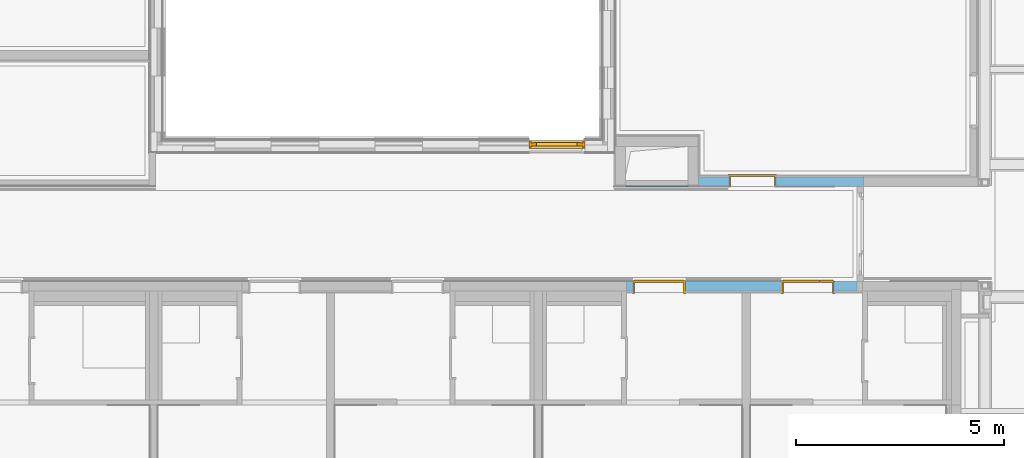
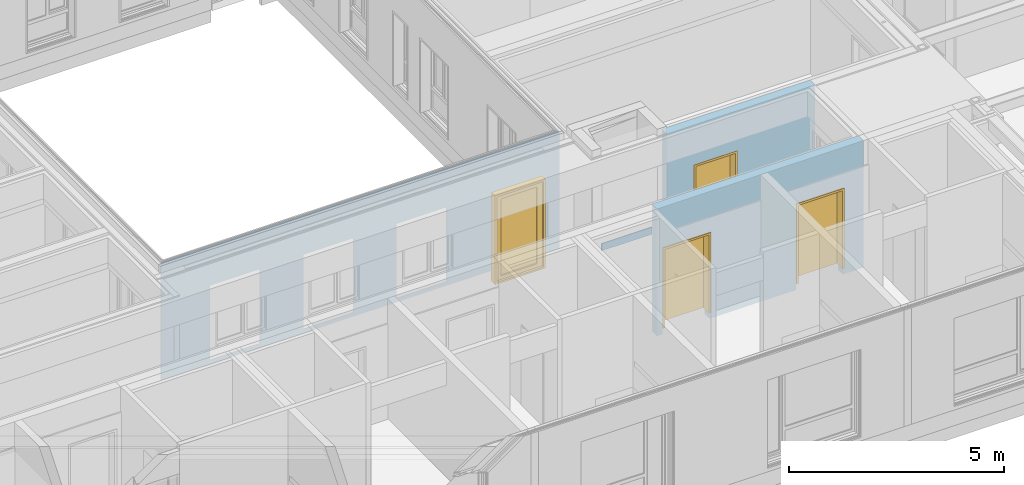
# One storey, part 74 of 207: 4 doors, 1 wall, 7 openings, plus 3 elements that do not belong to this part.
"""IFC4 building model written with IfcOpenShell, lengths in metres."""

from ifc_helpers import new_model, entity, si_unit, converted_unit, derived_unit, frame, frame_2d, origin, origin_with_axes, place, context, subcontext, project, spatial, polyline, rectangle, outline, extrude, closed_shell, open_shell, faceted_brep, surface_model, source, transform, mapped, material, type_object, element, fill, save


model = new_model("IFC4")

# Units and contexts
model_context = context("Model", 3, precision=1e-05, world=origin())
body_context = subcontext(model_context, "Body", "Model", "MODEL_VIEW")
ifc_project = project(units=[si_unit("LENGTHUNIT", "METRE"), si_unit("AREAUNIT", "SQUARE_METRE"), si_unit("VOLUMEUNIT", "CUBIC_METRE"), si_unit("MASSUNIT", "GRAM", prefix="KILO"), converted_unit("PLANEANGLEUNIT", "DEGREE", entity("IfcPlaneAngleMeasure", 0.0174532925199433), si_unit("PLANEANGLEUNIT", "RADIAN"), dimensions=[0, 0, 0, 0, 0, 0, 0]), derived_unit("THERMALTRANSMITTANCEUNIT", [(si_unit("POWERUNIT", "WATT"), 1), (si_unit("THERMODYNAMICTEMPERATUREUNIT", "KELVIN"), -1), (si_unit("LENGTHUNIT", "METRE"), -2)]), derived_unit("VOLUMETRICFLOWRATEUNIT", [(si_unit("LENGTHUNIT", "METRE"), 3), (converted_unit("TIMEUNIT", "hour", entity("IfcTimeMeasure", 3600.0), si_unit("TIMEUNIT", "SECOND"), dimensions=[0, 0, 1, 0, 0, 0, 0]), -1), (si_unit("LENGTHUNIT", "METRE"), -1)])], contexts=[model_context])

# Site, building, storey
site_placement = place(None, origin())
site = spatial("IfcSite", under=ifc_project, at=site_placement, Name="Psychiatrie Neubau Wunstorf", CompositionType="ELEMENT")
building_placement = place(site_placement, origin())
building = spatial("IfcBuilding", under=site, at=building_placement, Name="Neubau H2 Stationsgebäude", CompositionType="ELEMENT")
storey_placement = place(building_placement, frame((0.0, 0.0, -0.2)))
storey = spatial("IfcBuildingStorey", under=building, at=storey_placement, Name="H2 Ebene 0", CompositionType="ELEMENT", Elevation=-0.2)

# Wall, openings, door
ifc_material_1 = material(Name="WA-LB")
wall_1_placement = place(storey_placement, frame((15.915, 7.69, 0.5)))
wall_1 = element("IfcWall", 1, at=wall_1_placement, inside=storey, material=ifc_material_1, context=body_context, shape_type="SweptSolid", body=[
    extrude(rectangle(XDim=10.67, YDim=0.036, at=frame_2d((5.33499999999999, 0.018), x_axis=(1.0, 0.0))), origin_with_axes(), (0.0, 0.0, 1.0), 3.3),
])
opening_1_placement = place(wall_1_placement, frame((7.65516867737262, 0.036, 0.1), z_axis=(0.0, -1.0, 0.0), x_axis=(0.0, 0.0, 1.0)))
element("IfcOpeningElement", 2, at=opening_1_placement, cuts=wall_1, Name="Fensteröffnung", ObjectType="Opening", context=body_context, shape_type="SweptSolid", body=[
    extrude(outline(polyline([(2.12, 1.35), (2.12, 0.0), (0.0, 0.0), (0.0, 1.35), (2.12, 1.35)])), origin_with_axes(), (0.0, 0.0, 1.0), 0.036),
])
opening_2_placement = place(wall_1_placement, frame((5.15516867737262, 0.036, 0.1), z_axis=(0.0, -1.0, 0.0), x_axis=(0.0, 0.0, 1.0)))
element("IfcOpeningElement", 3, at=opening_2_placement, cuts=wall_1, Name="Fensteröffnung", ObjectType="Opening", context=body_context, shape_type="SweptSolid", body=[
    extrude(outline(polyline([(2.12, 1.35), (2.12, 0.0), (0.0, 0.0), (0.0, 1.35), (2.12, 1.35)])), origin_with_axes(), (0.0, 0.0, 1.0), 0.036),
])
opening_3_placement = place(wall_1_placement, frame((2.65516867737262, 0.036, 0.1), z_axis=(0.0, -1.0, 0.0), x_axis=(0.0, 0.0, 1.0)))
element("IfcOpeningElement", 4, at=opening_3_placement, cuts=wall_1, Name="Fensteröffnung", ObjectType="Opening", context=body_context, shape_type="SweptSolid", body=[
    extrude(outline(polyline([(2.12, 1.35), (2.12, 0.0), (0.0, 0.0), (0.0, 1.35), (2.12, 1.35)])), origin_with_axes(), (0.0, 0.0, 1.0), 0.036),
])
opening_4_placement = place(wall_1_placement, frame((10.2051686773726, 0.036, -0.5), z_axis=(0.0, -1.0, 0.0), x_axis=(0.0, 0.0, 1.0)))
opening_4 = element("IfcOpeningElement", 5, at=opening_4_placement, cuts=wall_1, Name="Türöffnung", ObjectType="Opening", context=body_context, shape_type="SweptSolid", body=[
    extrude(outline(polyline([(2.72, 1.35), (2.72, 0.0), (0.0, 0.0), (0.0, 1.35), (2.72, 1.35)])), origin_with_axes(), (0.0, 0.0, 1.0), 0.036),
])
ifc_material_2 = material(Name="TA-1F-AG-D-O")
door_type_1 = type_object("IfcDoorType", Name="SMT", OperationType="SINGLE_SWING_RIGHT", ParameterTakesPrecedence=False, PredefinedType="DOOR")
shared_shape_1 = source(origin_with_axes(), body_context, "Body", "SurfaceModel", [
    surface_model("IfcShellBasedSurfaceModel", [(1.35, 0.0, 2.72), (1.35, 0.0, 0.2), (1.3, 0.0, 0.2), (1.3, 0.0, 2.72), (1.35, 0.2, 0.2), (1.35, 0.2, 2.72), (1.3, 0.2, 2.72), (1.3, 0.2, 0.2)], [closed_shell([[[0, 1, 2, 3]], [[4, 5, 6, 7]], [[1, 0, 5, 4]], [[2, 1, 4, 7]], [[3, 2, 7, 6]], [[0, 3, 6, 5]]], orient=[[False], [False], [False], [False], [False], [False]])]),
    surface_model("IfcShellBasedSurfaceModel", [(0.05, 0.0, 2.72), (0.05, 0.0, 0.2), (0.0, 0.0, 0.2), (0.0, 0.0, 2.72), (0.05, 0.2, 0.2), (0.05, 0.2, 2.72), (0.0, 0.2, 2.72), (0.0, 0.2, 0.2)], [closed_shell([[[0, 1, 2, 3]], [[4, 5, 6, 7]], [[1, 0, 5, 4]], [[2, 1, 4, 7]], [[3, 2, 7, 6]], [[0, 3, 6, 5]]], orient=[[False], [False], [False], [False], [False], [False]])]),
    surface_model("IfcShellBasedSurfaceModel", [(1.3, 0.0, 0.25), (1.3, 0.0, 0.2), (0.05, 0.0, 0.2), (0.05, 0.0, 0.25), (1.3, 0.2, 0.2), (1.3, 0.2, 0.25), (0.05, 0.2, 0.25), (0.05, 0.2, 0.2)], [closed_shell([[[0, 1, 2, 3]], [[4, 5, 6, 7]], [[1, 0, 5, 4]], [[2, 1, 4, 7]], [[3, 2, 7, 6]], [[0, 3, 6, 5]]], orient=[[False], [False], [False], [False], [False], [False]])]),
    surface_model("IfcShellBasedSurfaceModel", [(1.3, 0.0, 2.72), (1.3, 0.0, 2.67), (0.05, 0.0, 2.67), (0.05, 0.0, 2.72), (1.3, 0.2, 2.67), (1.3, 0.2, 2.72), (0.05, 0.2, 2.72), (0.05, 0.2, 2.67)], [closed_shell([[[0, 1, 2, 3]], [[4, 5, 6, 7]], [[1, 0, 5, 4]], [[2, 1, 4, 7]], [[3, 2, 7, 6]], [[0, 3, 6, 5]]], orient=[[False], [False], [False], [False], [False], [False]])]),
    surface_model("IfcShellBasedSurfaceModel", [(1.3, 0.0599999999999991, 2.67), (1.3, 0.0599999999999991, 0.25), (1.22, 0.0599999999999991, 0.25), (1.22, 0.0599999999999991, 2.67), (1.3, 0.14, 0.25), (1.3, 0.139999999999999, 2.67), (1.22, 0.139999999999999, 2.67), (1.22, 0.14, 0.25)], [closed_shell([[[0, 1, 2, 3]], [[4, 5, 6, 7]], [[1, 0, 5, 4]], [[2, 1, 4, 7]], [[3, 2, 7, 6]], [[0, 3, 6, 5]]], orient=[[False], [False], [False], [False], [False], [False]])]),
    surface_model("IfcShellBasedSurfaceModel", [(0.13, 0.0599999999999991, 2.67), (0.13, 0.0599999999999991, 0.25), (0.05, 0.0599999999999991, 0.25), (0.05, 0.0599999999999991, 2.67), (0.13, 0.14, 0.25), (0.13, 0.139999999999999, 2.67), (0.05, 0.14, 2.67), (0.05, 0.14, 0.25)], [closed_shell([[[0, 1, 2, 3]], [[4, 5, 6, 7]], [[1, 0, 5, 4]], [[2, 1, 4, 7]], [[3, 2, 7, 6]], [[0, 3, 6, 5]]], orient=[[False], [False], [False], [False], [False], [False]])]),
    surface_model("IfcShellBasedSurfaceModel", [(1.22, 0.0599999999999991, 2.67), (1.22, 0.0599999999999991, 2.59), (0.13, 0.0599999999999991, 2.59), (0.13, 0.0599999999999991, 2.67), (1.22, 0.139999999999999, 2.59), (1.22, 0.139999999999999, 2.67), (0.13, 0.139999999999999, 2.67), (0.13, 0.14, 2.59)], [closed_shell([[[0, 1, 2, 3]], [[4, 5, 6, 7]], [[1, 0, 5, 4]], [[2, 1, 4, 7]], [[3, 2, 7, 6]], [[0, 3, 6, 5]]], orient=[[False], [False], [False], [False], [False], [False]])]),
    surface_model("IfcShellBasedSurfaceModel", [(1.24, 0.0609999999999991, 2.61), (1.24, 0.0609999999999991, 0.23), (1.16, 0.0609999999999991, 0.23), (1.16, 0.0609999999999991, 2.61), (1.24, 0.141, 0.23), (1.24, 0.140999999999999, 2.61), (1.16, 0.140999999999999, 2.61), (1.16, 0.141, 0.23)], [closed_shell([[[0, 1, 2, 3]], [[4, 5, 6, 7]], [[1, 0, 5, 4]], [[2, 1, 4, 7]], [[3, 2, 7, 6]], [[0, 3, 6, 5]]], orient=[[False], [False], [False], [False], [False], [False]])]),
    surface_model("IfcShellBasedSurfaceModel", [(0.19, 0.0609999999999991, 2.61), (0.19, 0.0609999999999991, 0.23), (0.11, 0.0609999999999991, 0.23), (0.11, 0.0609999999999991, 2.61), (0.19, 0.141, 0.23), (0.19, 0.140999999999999, 2.61), (0.11, 0.141, 2.61), (0.11, 0.141, 0.23)], [closed_shell([[[0, 1, 2, 3]], [[4, 5, 6, 7]], [[1, 0, 5, 4]], [[2, 1, 4, 7]], [[3, 2, 7, 6]], [[0, 3, 6, 5]]], orient=[[False], [False], [False], [False], [False], [False]])]),
    surface_model("IfcShellBasedSurfaceModel", [(1.16, 0.0609999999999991, 0.35), (1.16, 0.0609999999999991, 0.23), (0.19, 0.0609999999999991, 0.23), (0.19, 0.0609999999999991, 0.35), (1.16, 0.141, 0.23), (1.16, 0.141, 0.35), (0.19, 0.141, 0.35), (0.19, 0.141, 0.23)], [closed_shell([[[0, 1, 2, 3]], [[4, 5, 6, 7]], [[1, 0, 5, 4]], [[2, 1, 4, 7]], [[3, 2, 7, 6]], [[0, 3, 6, 5]]], orient=[[False], [False], [False], [False], [False], [False]])]),
    surface_model("IfcShellBasedSurfaceModel", [(1.16, 0.0609999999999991, 2.61), (1.16, 0.0609999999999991, 2.53), (0.19, 0.0609999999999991, 2.53), (0.19, 0.0609999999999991, 2.61), (1.16, 0.140999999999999, 2.53), (1.16, 0.140999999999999, 2.61), (0.19, 0.140999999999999, 2.61), (0.19, 0.141, 2.53)], [closed_shell([[[0, 1, 2, 3]], [[4, 5, 6, 7]], [[1, 0, 5, 4]], [[2, 1, 4, 7]], [[3, 2, 7, 6]], [[0, 3, 6, 5]]], orient=[[False], [False], [False], [False], [False], [False]])]),
    surface_model("IfcShellBasedSurfaceModel", [(1.16, 0.101, 0.35), (0.19, 0.101, 0.35), (0.19, 0.100999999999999, 2.53), (1.16, 0.100999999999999, 2.53)], [open_shell([[[0, 1, 2, 3]]], orient=[[False]])]),
])
door_1_placement = place(opening_4_placement, frame((0.0, 1.35, 0.2), z_axis=(1.0, 0.0, 0.0), x_axis=(0.0, -1.0, 0.0)))
door_1 = element("IfcDoor", 6, at=door_1_placement, inside=storey, type_object=door_type_1, material=ifc_material_2, Name="SMT", OverallHeight=2.72, OverallWidth=1.35, context=body_context, shape_type="MappedRepresentation", body=[
    mapped(shared_shape_1, transform((0.0, 0.0, 0.0), x_axis=(1.0, 0.0, 0.0), y_axis=(0.0, 1.0, 0.0), z_axis=(0.0, 0.0, 1.0), scale=1.0)),
])
fill(opening_4, door_1)

# Wall, opening, door
ifc_material_3 = material(Name="WI-HW 60")
wall_2_placement = place(storey_placement, frame((28.85, 6.612, 0.0)))
wall_2 = element("IfcWall", 7, at=wall_2_placement, inside=storey, material=ifc_material_3, context=body_context, shape_type="SweptSolid", body=[
    extrude(rectangle(XDim=3.96849999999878, YDim=0.232, at=frame_2d((1.98424999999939, 0.116), x_axis=(1.0, 0.0))), origin_with_axes(), (0.0, 0.0, 1.0), 3.6),
])
opening_5_placement = place(wall_2_placement, frame((1.86499999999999, 0.231999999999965, 0.0), z_axis=(0.0, -1.0, 0.0), x_axis=(0.0, 0.0, 1.0)))
opening_5 = element("IfcOpeningElement", 8, at=opening_5_placement, cuts=wall_2, Name="Türöffnung", ObjectType="Opening", context=body_context, shape_type="SweptSolid", body=[
    extrude(outline(polyline([(2.46, 1.135), (2.46, 0.0), (0.0, 0.0), (0.0, 1.135), (2.46, 1.135)])), origin_with_axes(), (0.0, 0.0, 1.0), 0.232),
])
ifc_material_4 = material(Name="TI-1F-UZ-D")
door_type_2 = type_object("IfcDoorType", Name="SMT", OperationType="SINGLE_SWING_RIGHT", ParameterTakesPrecedence=False, PredefinedType="DOOR")
shared_shape_2 = source(origin_with_axes(), body_context, "Body", "Brep", [
    faceted_brep([(0.0, -0.015, 2.46), (0.04, -0.015, 2.46), (0.04, -0.015, 0.2), (0.0, -0.015, 0.2), (0.0, 0.287, 0.2), (0.04, 0.287, 0.2), (0.04, 0.287, 2.46), (0.0, 0.287, 2.46)], [[[0, 1, 2, 3]], [[4, 5, 6, 7]], [[3, 4, 7, 0]], [[2, 5, 4, 3]], [[1, 6, 5, 2]], [[0, 7, 6, 1]]], orient=[[False], [False], [False], [False], [False], [False]]),
    faceted_brep([(0.0, -0.015, 2.475), (0.0, -0.015, 0.2), (-0.015, -0.015, 0.2), (-0.015, -0.015, 2.475), (0.0, 0.0, 0.2), (0.0, 0.0, 2.475), (-0.015, 0.0, 2.475), (-0.015, 0.0, 0.2)], [[[0, 1, 2, 3]], [[4, 5, 6, 7]], [[1, 0, 5, 4]], [[2, 1, 4, 7]], [[3, 2, 7, 6]], [[0, 3, 6, 5]]], orient=[[False], [False], [False], [False], [False], [False]]),
    faceted_brep([(0.0, 0.272, 2.475), (0.0, 0.272, 0.2), (-0.015, 0.272, 0.2), (-0.015, 0.272, 2.475), (0.0, 0.287, 0.2), (0.0, 0.287, 2.475), (-0.015, 0.287, 2.475), (-0.015, 0.287, 0.2)], [[[0, 1, 2, 3]], [[4, 5, 6, 7]], [[1, 0, 5, 4]], [[2, 1, 4, 7]], [[3, 2, 7, 6]], [[0, 3, 6, 5]]], orient=[[False], [False], [False], [False], [False], [False]]),
    faceted_brep([(1.095, -0.0150000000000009, 2.46), (1.135, -0.0150000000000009, 2.46), (1.135, -0.015, 0.2), (1.095, -0.015, 0.2), (1.095, 0.287, 0.2), (1.135, 0.287, 0.2), (1.135, 0.286999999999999, 2.46), (1.095, 0.286999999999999, 2.46)], [[[0, 1, 2, 3]], [[4, 5, 6, 7]], [[3, 4, 7, 0]], [[2, 5, 4, 3]], [[1, 6, 5, 2]], [[0, 7, 6, 1]]], orient=[[False], [False], [False], [False], [False], [False]]),
    faceted_brep([(1.135, -0.0150000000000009, 2.475), (1.15, -0.0150000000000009, 2.475), (1.15, -0.015, 0.2), (1.135, -0.015, 0.2), (1.135, 0.0, 0.2), (1.15, 0.0, 0.2), (1.15, 0.0, 2.475), (1.135, 0.0, 2.475)], [[[0, 1, 2, 3]], [[4, 5, 6, 7]], [[3, 4, 7, 0]], [[2, 5, 4, 3]], [[1, 6, 5, 2]], [[0, 7, 6, 1]]], orient=[[False], [False], [False], [False], [False], [False]]),
    faceted_brep([(1.135, 0.271999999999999, 2.475), (1.15, 0.271999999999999, 2.475), (1.15, 0.272, 0.2), (1.135, 0.272, 0.2), (1.135, 0.287, 0.2), (1.15, 0.287, 0.2), (1.15, 0.286999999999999, 2.475), (1.135, 0.286999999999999, 2.475)], [[[0, 1, 2, 3]], [[4, 5, 6, 7]], [[3, 4, 7, 0]], [[2, 5, 4, 3]], [[1, 6, 5, 2]], [[0, 7, 6, 1]]], orient=[[False], [False], [False], [False], [False], [False]]),
    faceted_brep([(0.04, -0.015, 2.46), (1.095, -0.0150000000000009, 2.46), (1.095, -0.0150000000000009, 2.42), (0.04, -0.015, 2.42), (0.04, 0.287, 2.42), (1.095, 0.286999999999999, 2.42), (1.095, 0.286999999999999, 2.46), (0.04, 0.287, 2.46)], [[[0, 1, 2, 3]], [[4, 5, 6, 7]], [[3, 4, 7, 0]], [[2, 5, 4, 3]], [[1, 6, 5, 2]], [[0, 7, 6, 1]]], orient=[[False], [False], [False], [False], [False], [False]]),
    faceted_brep([(0.0, -0.015, 2.475), (1.135, -0.0150000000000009, 2.475), (1.135, -0.0150000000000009, 2.46), (0.0, -0.015, 2.46), (0.0, 0.0, 2.46), (1.135, 0.0, 2.46), (1.135, 0.0, 2.475), (0.0, 0.0, 2.475)], [[[0, 1, 2, 3]], [[4, 5, 6, 7]], [[3, 4, 7, 0]], [[2, 5, 4, 3]], [[1, 6, 5, 2]], [[0, 7, 6, 1]]], orient=[[False], [False], [False], [False], [False], [False]]),
    faceted_brep([(0.0, 0.272, 2.475), (1.135, 0.271999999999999, 2.475), (1.135, 0.271999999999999, 2.46), (0.0, 0.272, 2.46), (0.0, 0.287, 2.46), (1.135, 0.286999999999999, 2.46), (1.135, 0.286999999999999, 2.475), (0.0, 0.287, 2.475)], [[[0, 1, 2, 3]], [[4, 5, 6, 7]], [[3, 4, 7, 0]], [[2, 5, 4, 3]], [[1, 6, 5, 2]], [[0, 7, 6, 1]]], orient=[[False], [False], [False], [False], [False], [False]]),
    faceted_brep([(0.025, 0.238, 2.435), (1.11, 0.238, 2.435), (1.11, 0.238, 0.2), (0.025, 0.238, 0.2), (0.025, 0.288, 0.2), (1.11, 0.288, 0.2), (1.11, 0.288, 2.435), (0.025, 0.288, 2.435)], [[[0, 1, 2, 3]], [[4, 5, 6, 7]], [[3, 4, 7, 0]], [[2, 5, 4, 3]], [[1, 6, 5, 2]], [[0, 7, 6, 1]]], orient=[[False], [False], [False], [False], [False], [False]]),
])
door_2_placement = place(opening_5_placement, frame((0.0, 1.135, 0.232), z_axis=(1.0, 0.0, 0.0), x_axis=(0.0, -1.0, 0.0)))
door_2 = element("IfcDoor", 9, at=door_2_placement, inside=storey, type_object=door_type_2, material=ifc_material_4, Name="SMT", OverallHeight=2.46, OverallWidth=1.135, context=body_context, shape_type="MappedRepresentation", body=[
    mapped(shared_shape_2, transform((0.0, 0.0, 0.0), x_axis=(1.0, 0.0, 0.0), y_axis=(0.0, 1.0, 0.0), z_axis=(0.0, 0.0, 1.0), scale=1.0)),
])
fill(opening_5, door_2)

# Wall, openings, doors
ifc_material_5 = material(Name="WI-HW 60")
wall_3_placement = place(storey_placement, frame((32.6634999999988, 4.33074963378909, 0.0), z_axis=(0.0, 0.0, 1.0), x_axis=(-1.0, -8.21065903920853e-16, 0.0)))
wall_3 = element("IfcWall", 10, at=wall_3_placement, inside=storey, material=ifc_material_5, context=body_context, shape_type="SweptSolid", body=[
    extrude(rectangle(XDim=5.53849999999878, YDim=0.232000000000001, at=frame_2d((2.76924999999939, 0.116), x_axis=(1.0, 0.0))), origin_with_axes(), (0.0, 0.0, 1.0), 3.6),
])
opening_6_placement = place(wall_3_placement, frame((0.548499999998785, 0.0, 0.0), z_axis=(9.80058945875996e-16, 1.0, 0.0), x_axis=(0.0, 0.0, 1.0)))
opening_6 = element("IfcOpeningElement", 11, at=opening_6_placement, cuts=wall_3, Name="Türöffnung", ObjectType="Opening", context=body_context, shape_type="SweptSolid", body=[
    extrude(outline(polyline([(2.46, 1.26), (2.46, 0.0), (0.0, 0.0), (0.0, 1.26), (2.46, 1.26)])), origin_with_axes(), (0.0, 0.0, 1.0), 0.232000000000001),
])
opening_7_placement = place(wall_3_placement, frame((4.12849999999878, 0.0, 0.0), z_axis=(0.0, 1.0, 0.0), x_axis=(0.0, 0.0, 1.0)))
opening_7 = element("IfcOpeningElement", 12, at=opening_7_placement, cuts=wall_3, Name="Türöffnung", ObjectType="Opening", context=body_context, shape_type="SweptSolid", body=[
    extrude(outline(polyline([(2.46, 1.26), (2.46, 0.0), (0.0, 0.0), (0.0, 1.26), (2.46, 1.26)])), origin_with_axes(), (0.0, 0.0, 1.0), 0.232000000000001),
])
ifc_material_6 = material(Name="TI-2F-UZ-D")
door_type_3 = type_object("IfcDoorType", Name="SMT", OperationType="DOUBLE_DOOR_SINGLE_SWING", ParameterTakesPrecedence=False, PredefinedType="DOOR")
shared_shape_3 = source(origin_with_axes(), body_context, "Body", "Brep", [
    faceted_brep([(0.0, -0.0150000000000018, 2.46), (0.04, -0.0150000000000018, 2.46), (0.04, -0.0150000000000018, 0.2), (0.0, -0.0150000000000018, 0.2), (0.0, 0.2865, 0.2), (0.04, 0.2865, 0.2), (0.04, 0.2865, 2.46), (0.0, 0.2865, 2.46)], [[[0, 1, 2, 3]], [[4, 5, 6, 7]], [[3, 4, 7, 0]], [[2, 5, 4, 3]], [[1, 6, 5, 2]], [[0, 7, 6, 1]]], orient=[[False], [False], [False], [False], [False], [False]]),
    faceted_brep([(0.0, -0.0150000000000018, 2.475), (0.0, -0.0150000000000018, 0.2), (-0.015, -0.0150000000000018, 0.2), (-0.015, -0.0150000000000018, 2.475), (0.0, 0.0, 0.2), (0.0, 0.0, 2.475), (-0.015, 0.0, 2.475), (-0.015, 0.0, 0.2)], [[[0, 1, 2, 3]], [[4, 5, 6, 7]], [[1, 0, 5, 4]], [[2, 1, 4, 7]], [[3, 2, 7, 6]], [[0, 3, 6, 5]]], orient=[[False], [False], [False], [False], [False], [False]]),
    faceted_brep([(0.0, 0.2715, 2.475), (0.0, 0.2715, 0.2), (-0.015, 0.2715, 0.2), (-0.015, 0.2715, 2.475), (0.0, 0.2865, 0.2), (0.0, 0.2865, 2.475), (-0.015, 0.2865, 2.475), (-0.015, 0.2865, 0.2)], [[[0, 1, 2, 3]], [[4, 5, 6, 7]], [[1, 0, 5, 4]], [[2, 1, 4, 7]], [[3, 2, 7, 6]], [[0, 3, 6, 5]]], orient=[[False], [False], [False], [False], [False], [False]]),
    faceted_brep([(1.22, -0.0150000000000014, 2.46), (1.26, -0.0150000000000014, 2.46), (1.26, -0.0150000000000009, 0.2), (1.22, -0.0150000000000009, 0.2), (1.22, 0.2865, 0.2), (1.26, 0.2865, 0.2), (1.26, 0.2865, 2.46), (1.22, 0.2865, 2.46)], [[[0, 1, 2, 3]], [[4, 5, 6, 7]], [[3, 4, 7, 0]], [[2, 5, 4, 3]], [[1, 6, 5, 2]], [[0, 7, 6, 1]]], orient=[[False], [False], [False], [False], [False], [False]]),
    faceted_brep([(1.26, -0.0150000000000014, 2.475), (1.275, -0.0150000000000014, 2.475), (1.275, -0.0150000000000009, 0.2), (1.26, -0.0150000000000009, 0.2), (1.26, 0.0, 0.2), (1.275, 0.0, 0.2), (1.275, 0.0, 2.475), (1.26, 0.0, 2.475)], [[[0, 1, 2, 3]], [[4, 5, 6, 7]], [[3, 4, 7, 0]], [[2, 5, 4, 3]], [[1, 6, 5, 2]], [[0, 7, 6, 1]]], orient=[[False], [False], [False], [False], [False], [False]]),
    faceted_brep([(1.26, 0.2715, 2.475), (1.275, 0.2715, 2.475), (1.275, 0.2715, 0.2), (1.26, 0.2715, 0.2), (1.26, 0.2865, 0.2), (1.275, 0.2865, 0.2), (1.275, 0.2865, 2.475), (1.26, 0.2865, 2.475)], [[[0, 1, 2, 3]], [[4, 5, 6, 7]], [[3, 4, 7, 0]], [[2, 5, 4, 3]], [[1, 6, 5, 2]], [[0, 7, 6, 1]]], orient=[[False], [False], [False], [False], [False], [False]]),
    faceted_brep([(0.04, -0.0150000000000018, 2.46), (1.22, -0.0150000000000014, 2.46), (1.22, -0.0150000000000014, 2.42), (0.04, -0.0150000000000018, 2.42), (0.04, 0.2865, 2.42), (1.22, 0.2865, 2.42), (1.22, 0.2865, 2.46), (0.04, 0.2865, 2.46)], [[[0, 1, 2, 3]], [[4, 5, 6, 7]], [[3, 4, 7, 0]], [[2, 5, 4, 3]], [[1, 6, 5, 2]], [[0, 7, 6, 1]]], orient=[[False], [False], [False], [False], [False], [False]]),
    faceted_brep([(0.0, -0.0150000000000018, 2.475), (1.26, -0.0150000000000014, 2.475), (1.26, -0.0150000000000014, 2.46), (0.0, -0.0150000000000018, 2.46), (0.0, 0.0, 2.46), (1.26, 0.0, 2.46), (1.26, 0.0, 2.475), (0.0, 0.0, 2.475)], [[[0, 1, 2, 3]], [[4, 5, 6, 7]], [[3, 4, 7, 0]], [[2, 5, 4, 3]], [[1, 6, 5, 2]], [[0, 7, 6, 1]]], orient=[[False], [False], [False], [False], [False], [False]]),
    faceted_brep([(0.0, 0.2715, 2.475), (1.26, 0.2715, 2.475), (1.26, 0.2715, 2.46), (0.0, 0.2715, 2.46), (0.0, 0.2865, 2.46), (1.26, 0.2865, 2.46), (1.26, 0.2865, 2.475), (0.0, 0.2865, 2.475)], [[[0, 1, 2, 3]], [[4, 5, 6, 7]], [[3, 4, 7, 0]], [[2, 5, 4, 3]], [[1, 6, 5, 2]], [[0, 7, 6, 1]]], orient=[[False], [False], [False], [False], [False], [False]]),
    faceted_brep([(0.025, 0.2515, 2.435), (0.925, 0.2515, 2.435), (0.925, 0.2515, 0.2), (0.025, 0.2515, 0.2), (0.025, 0.3015, 0.2), (0.925, 0.3015, 0.2), (0.925, 0.3015, 2.435), (0.025, 0.3015, 2.435)], [[[0, 1, 2, 3]], [[4, 5, 6, 7]], [[3, 4, 7, 0]], [[2, 5, 4, 3]], [[1, 6, 5, 2]], [[0, 7, 6, 1]]], orient=[[False], [False], [False], [False], [False], [False]]),
    faceted_brep([(0.926, 0.2515, 2.435), (1.235, 0.2515, 2.435), (1.235, 0.2515, 0.2), (0.926, 0.2515, 0.2), (0.926, 0.3015, 0.2), (1.235, 0.3015, 0.2), (1.235, 0.3015, 2.435), (0.926, 0.3015, 2.435)], [[[0, 1, 2, 3]], [[4, 5, 6, 7]], [[3, 4, 7, 0]], [[2, 5, 4, 3]], [[1, 6, 5, 2]], [[0, 7, 6, 1]]], orient=[[False], [False], [False], [False], [False], [False]]),
])
door_3_placement = place(opening_6_placement, frame((0.0, 1.26, 0.2715), z_axis=(1.0, 0.0, 0.0), x_axis=(0.0, -1.0, 5.62828149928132e-16)))
door_3 = element("IfcDoor", 13, at=door_3_placement, inside=storey, type_object=door_type_3, material=ifc_material_6, Name="SMT", OverallHeight=2.46, OverallWidth=1.26, context=body_context, shape_type="MappedRepresentation", body=[
    mapped(shared_shape_3, transform((0.0, 0.0, 0.0), x_axis=(1.0, 0.0, 0.0), y_axis=(0.0, 1.0, 0.0), z_axis=(0.0, 0.0, 1.0), scale=1.0)),
])
fill(opening_6, door_3)
ifc_material_7 = material(Name="TI-2F-UZ-D")
door_type_4 = type_object("IfcDoorType", Name="SMT", OperationType="DOUBLE_DOOR_SINGLE_SWING", ParameterTakesPrecedence=False, PredefinedType="DOOR")
shared_shape_4 = source(origin_with_axes(), body_context, "Body", "Brep", [
    faceted_brep([(1.26, -0.0150000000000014, 2.46), (1.26, -0.0150000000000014, 0.2), (1.22, -0.0150000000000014, 0.2), (1.22, -0.0150000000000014, 2.46), (1.26, 0.286500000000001, 0.2), (1.26, 0.286500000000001, 2.46), (1.22, 0.286500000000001, 2.46), (1.22, 0.286500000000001, 0.2)], [[[0, 1, 2, 3]], [[4, 5, 6, 7]], [[1, 0, 5, 4]], [[2, 1, 4, 7]], [[3, 2, 7, 6]], [[0, 3, 6, 5]]], orient=[[False], [False], [False], [False], [False], [False]]),
    faceted_brep([(1.26, -0.0150000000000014, 2.475), (1.275, -0.0150000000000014, 2.475), (1.275, -0.0150000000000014, 0.2), (1.26, -0.0150000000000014, 0.2), (1.26, 0.0, 0.2), (1.275, 0.0, 0.2), (1.275, 0.0, 2.475), (1.26, 0.0, 2.475)], [[[0, 1, 2, 3]], [[4, 5, 6, 7]], [[3, 4, 7, 0]], [[2, 5, 4, 3]], [[1, 6, 5, 2]], [[0, 7, 6, 1]]], orient=[[False], [False], [False], [False], [False], [False]]),
    faceted_brep([(1.26, 0.271500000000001, 2.475), (1.275, 0.271500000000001, 2.475), (1.275, 0.271500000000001, 0.2), (1.26, 0.271500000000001, 0.2), (1.26, 0.286500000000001, 0.2), (1.275, 0.286500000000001, 0.2), (1.275, 0.286500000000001, 2.475), (1.26, 0.286500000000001, 2.475)], [[[0, 1, 2, 3]], [[4, 5, 6, 7]], [[3, 4, 7, 0]], [[2, 5, 4, 3]], [[1, 6, 5, 2]], [[0, 7, 6, 1]]], orient=[[False], [False], [False], [False], [False], [False]]),
    faceted_brep([(0.04, -0.0150000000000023, 2.46), (0.04, -0.0150000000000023, 0.2), (0.0, -0.0150000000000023, 0.2), (0.0, -0.0150000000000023, 2.46), (0.04, 0.2865, 0.2), (0.04, 0.2865, 2.46), (0.0, 0.2865, 2.46), (0.0, 0.2865, 0.2)], [[[0, 1, 2, 3]], [[4, 5, 6, 7]], [[1, 0, 5, 4]], [[2, 1, 4, 7]], [[3, 2, 7, 6]], [[0, 3, 6, 5]]], orient=[[False], [False], [False], [False], [False], [False]]),
    faceted_brep([(0.0, -0.0150000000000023, 2.475), (0.0, -0.0150000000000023, 0.2), (-0.015, -0.0150000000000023, 0.2), (-0.015, -0.0150000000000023, 2.475), (0.0, 0.0, 0.2), (0.0, 0.0, 2.475), (-0.015, 0.0, 2.475), (-0.015, 0.0, 0.2)], [[[0, 1, 2, 3]], [[4, 5, 6, 7]], [[1, 0, 5, 4]], [[2, 1, 4, 7]], [[3, 2, 7, 6]], [[0, 3, 6, 5]]], orient=[[False], [False], [False], [False], [False], [False]]),
    faceted_brep([(0.0, 0.2715, 2.475), (0.0, 0.2715, 0.2), (-0.015, 0.2715, 0.2), (-0.015, 0.2715, 2.475), (0.0, 0.2865, 0.2), (0.0, 0.2865, 2.475), (-0.015, 0.2865, 2.475), (-0.015, 0.2865, 0.2)], [[[0, 1, 2, 3]], [[4, 5, 6, 7]], [[1, 0, 5, 4]], [[2, 1, 4, 7]], [[3, 2, 7, 6]], [[0, 3, 6, 5]]], orient=[[False], [False], [False], [False], [False], [False]]),
    faceted_brep([(1.22, -0.0150000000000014, 2.46), (1.22, -0.0150000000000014, 2.42), (0.04, -0.0150000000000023, 2.42), (0.04, -0.0150000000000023, 2.46), (1.22, 0.286500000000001, 2.42), (1.22, 0.286500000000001, 2.46), (0.04, 0.2865, 2.46), (0.04, 0.2865, 2.42)], [[[0, 1, 2, 3]], [[4, 5, 6, 7]], [[1, 0, 5, 4]], [[2, 1, 4, 7]], [[3, 2, 7, 6]], [[0, 3, 6, 5]]], orient=[[False], [False], [False], [False], [False], [False]]),
    faceted_brep([(1.26, -0.0150000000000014, 2.475), (1.26, -0.0150000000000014, 2.46), (0.0, -0.0150000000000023, 2.46), (0.0, -0.0150000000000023, 2.475), (1.26, 0.0, 2.46), (1.26, 0.0, 2.475), (0.0, 0.0, 2.475), (0.0, 0.0, 2.46)], [[[0, 1, 2, 3]], [[4, 5, 6, 7]], [[1, 0, 5, 4]], [[2, 1, 4, 7]], [[3, 2, 7, 6]], [[0, 3, 6, 5]]], orient=[[False], [False], [False], [False], [False], [False]]),
    faceted_brep([(1.26, 0.271500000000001, 2.475), (1.26, 0.271500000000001, 2.46), (0.0, 0.2715, 2.46), (0.0, 0.2715, 2.475), (1.26, 0.286500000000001, 2.46), (1.26, 0.286500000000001, 2.475), (0.0, 0.2865, 2.475), (0.0, 0.2865, 2.46)], [[[0, 1, 2, 3]], [[4, 5, 6, 7]], [[1, 0, 5, 4]], [[2, 1, 4, 7]], [[3, 2, 7, 6]], [[0, 3, 6, 5]]], orient=[[False], [False], [False], [False], [False], [False]]),
    faceted_brep([(1.235, 0.251500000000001, 2.435), (1.235, 0.251500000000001, 0.2), (0.335, 0.2515, 0.2), (0.335, 0.2515, 2.435), (1.235, 0.301500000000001, 0.2), (1.235, 0.301500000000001, 2.435), (0.335, 0.3015, 2.435), (0.335, 0.3015, 0.2)], [[[0, 1, 2, 3]], [[4, 5, 6, 7]], [[1, 0, 5, 4]], [[2, 1, 4, 7]], [[3, 2, 7, 6]], [[0, 3, 6, 5]]], orient=[[False], [False], [False], [False], [False], [False]]),
    faceted_brep([(0.334, 0.2515, 2.435), (0.334, 0.2515, 0.2), (0.025, 0.2515, 0.2), (0.025, 0.2515, 2.435), (0.334, 0.3015, 0.2), (0.334, 0.3015, 2.435), (0.025, 0.3015, 2.435), (0.025, 0.3015, 0.2)], [[[0, 1, 2, 3]], [[4, 5, 6, 7]], [[1, 0, 5, 4]], [[2, 1, 4, 7]], [[3, 2, 7, 6]], [[0, 3, 6, 5]]], orient=[[False], [False], [False], [False], [False], [False]]),
])
door_4_placement = place(opening_7_placement, frame((0.0, 1.26, 0.271499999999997), z_axis=(1.0, 0.0, 0.0), x_axis=(0.0, -1.0, 1.54288709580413e-15)))
door_4 = element("IfcDoor", 14, at=door_4_placement, inside=storey, type_object=door_type_4, material=ifc_material_7, Name="SMT", OverallHeight=2.46, OverallWidth=1.26, context=body_context, shape_type="MappedRepresentation", body=[
    mapped(shared_shape_4, transform((0.0, 0.0, 0.0), x_axis=(1.0, 0.0, 0.0), y_axis=(0.0, 1.0, 0.0), z_axis=(0.0, 0.0, 1.0), scale=1.0)),
])
fill(opening_7, door_4)

# Wall
wall_4_placement = place(storey_placement, frame((27.1, 6.61199999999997, 0.9)))
element("IfcWall", 15, at=wall_4_placement, inside=storey, Name="WV 1.1", context=body_context, shape_type="Brep", body=[
    faceted_brep([(0.0, 0.025, 0.0), (0.0, 0.0, 0.0), (1.5, 0.0, 0.0), (1.5, 0.025, 0.0), (0.0, 0.0, 0.2), (0.0, 0.025, 0.2), (1.5, 0.025, 0.2), (1.5, 0.0, 0.2)], [[[0, 1, 2, 3]], [[4, 5, 6, 7]], [[1, 0, 5, 4]], [[2, 1, 4, 7]], [[3, 2, 7, 6]], [[0, 3, 6, 5]]], orient=[[False], [False], [False], [False], [False], [False]]),
])

save(model, "model.ifc")
